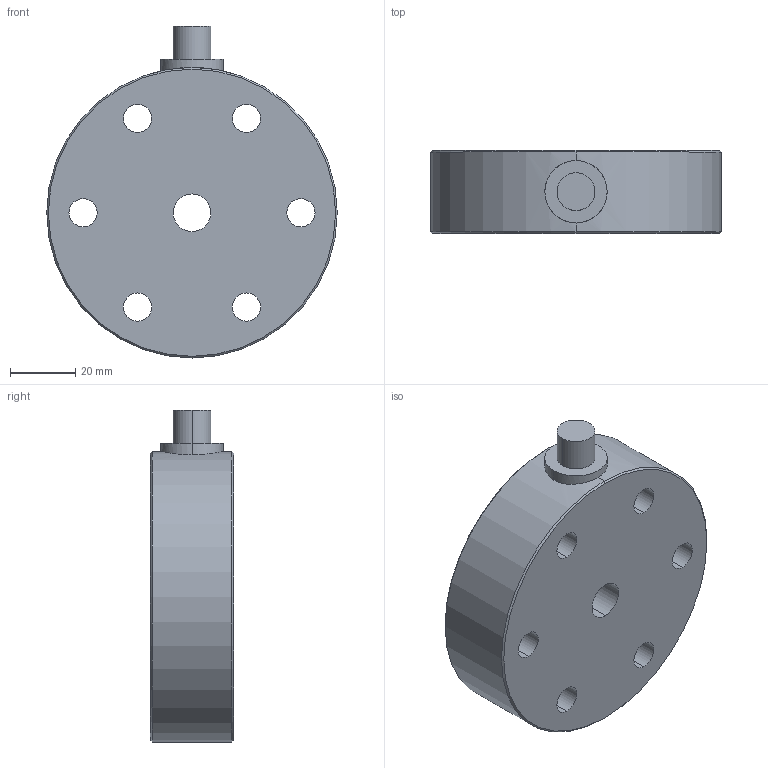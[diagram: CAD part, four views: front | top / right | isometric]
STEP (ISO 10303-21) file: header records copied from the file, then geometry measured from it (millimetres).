
FILE_DESCRIPTION (( 'STEP AP214' ), '1' );
FILE_NAME ('SS1176-3KIEC.STEP', '2024-10-14T17:27:41', ( '' ), ( '' ), 'SwSTEP 2.0', 'SolidWorks 2008', '' );
FILE_SCHEMA (( 'AUTOMOTIVE_DESIGN' ));
Length unit declared in the file: inch
Products named in the file (1): SS1176-3KIEC
Bounding box: 88.9 x 25.4 x 101.6 mm (x, y, z)
Volume: 147883.9 mm3; surface area: 24033.5 mm2
Topology: 1 solids, 1 shells, 28 faces, 71 edges, 46 vertices
Faces by surface type: cylinder 20, cone 4, plane 4
Entity records: 1033 total; most frequent: CARTESIAN_POINT 241, DIRECTION 167, ORIENTED_EDGE 142, EDGE_CURVE 71, AXIS2_PLACEMENT_3D 71, VERTEX_POINT 46, EDGE_LOOP 43, CIRCLE 42
